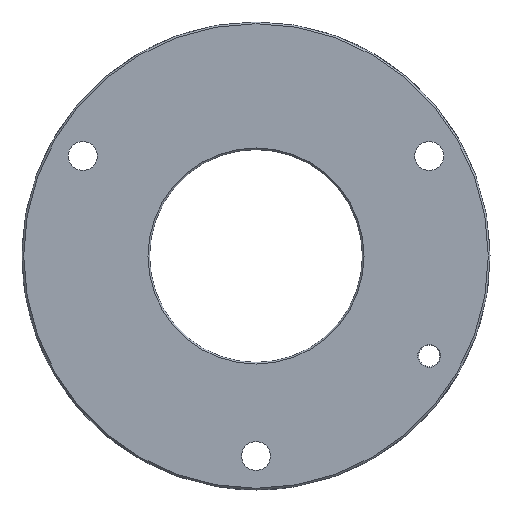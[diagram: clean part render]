
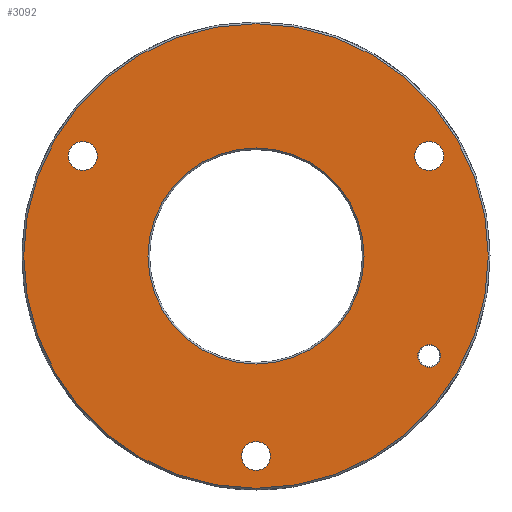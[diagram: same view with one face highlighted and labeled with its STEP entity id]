
A CAD part, front view. The second image highlights one B-rep face of the part: STEP entity #3092.
In plain terms, the highlighted planar face has unit normal (0, -1, 0).
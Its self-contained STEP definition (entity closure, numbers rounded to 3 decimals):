
#17 = AXIS2_PLACEMENT_3D ( 'NONE', #2975, #611, #1956 ) ;
#19 = FACE_BOUND ( 'NONE', #1438, .T. ) ;
#27 = VERTEX_POINT ( 'NONE', #1598 ) ;
#30 = EDGE_LOOP ( 'NONE', ( #1203, #3297 ) ) ;
#56 = VERTEX_POINT ( 'NONE', #2658 ) ;
#73 = CIRCLE ( 'NONE', #1187, 27.3 ) ;
#77 = CARTESIAN_POINT ( 'NONE',  ( 20.352, 0., -11.75 ) ) ;
#88 = DIRECTION ( 'NONE',  ( 0., 0., 1. ) ) ;
#148 = EDGE_LOOP ( 'NONE', ( #2287, #2779 ) ) ;
#197 = CARTESIAN_POINT ( 'NONE',  ( -20.352, 0., 13.45 ) ) ;
#205 = DIRECTION ( 'NONE',  ( 0., 0., 1. ) ) ;
#218 = VERTEX_POINT ( 'NONE', #2917 ) ;
#223 = CARTESIAN_POINT ( 'NONE',  ( 0., 0., 0. ) ) ;
#229 = AXIS2_PLACEMENT_3D ( 'NONE', #1380, #2192, #3225 ) ;
#236 = VERTEX_POINT ( 'NONE', #1625 ) ;
#285 = EDGE_CURVE ( 'NONE', #218, #943, #319, .T. ) ;
#319 = CIRCLE ( 'NONE', #761, 1.35 ) ;
#365 = CIRCLE ( 'NONE', #808, 12.7 ) ;
#390 = DIRECTION ( 'NONE',  ( 0., 0., 1. ) ) ;
#468 = DIRECTION ( 'NONE',  ( 0., 1., 0. ) ) ;
#480 = EDGE_CURVE ( 'NONE', #622, #236, #1616, .T. ) ;
#486 = FACE_BOUND ( 'NONE', #1218, .T. ) ;
#516 = AXIS2_PLACEMENT_3D ( 'NONE', #2047, #1545, #3155 ) ;
#611 = DIRECTION ( 'NONE',  ( 0., 1., 0. ) ) ;
#615 = CIRCLE ( 'NONE', #1855, 1.7 ) ;
#621 = EDGE_CURVE ( 'NONE', #1138, #27, #73, .T. ) ;
#622 = VERTEX_POINT ( 'NONE', #197 ) ;
#632 = CARTESIAN_POINT ( 'NONE',  ( -20.352, 0., 11.75 ) ) ;
#650 = ORIENTED_EDGE ( 'NONE', *, *, #2300, .T. ) ;
#693 = VERTEX_POINT ( 'NONE', #2903 ) ;
#724 = CARTESIAN_POINT ( 'NONE',  ( 0., 0., -25.2 ) ) ;
#732 = PLANE ( 'NONE',  #2748 ) ;
#747 = FACE_BOUND ( 'NONE', #837, .T. ) ;
#761 = AXIS2_PLACEMENT_3D ( 'NONE', #77, #1192, #1136 ) ;
#787 = EDGE_CURVE ( 'NONE', #2414, #2958, #1504, .T. ) ;
#789 = CIRCLE ( 'NONE', #229, 1.35 ) ;
#808 = AXIS2_PLACEMENT_3D ( 'NONE', #223, #1260, #1530 ) ;
#830 = EDGE_CURVE ( 'NONE', #2884, #1120, #3008, .T. ) ;
#837 = EDGE_LOOP ( 'NONE', ( #2789, #2519 ) ) ;
#902 = DIRECTION ( 'NONE',  ( 0., 1., 0. ) ) ;
#913 = AXIS2_PLACEMENT_3D ( 'NONE', #1198, #902, #3290 ) ;
#936 = EDGE_CURVE ( 'NONE', #693, #56, #365, .T. ) ;
#943 = VERTEX_POINT ( 'NONE', #2334 ) ;
#954 = AXIS2_PLACEMENT_3D ( 'NONE', #2391, #2455, #88 ) ;
#1040 = AXIS2_PLACEMENT_3D ( 'NONE', #3376, #468, #205 ) ;
#1080 = AXIS2_PLACEMENT_3D ( 'NONE', #3259, #1413, #3072 ) ;
#1120 = VERTEX_POINT ( 'NONE', #1193 ) ;
#1122 = CIRCLE ( 'NONE', #2341, 27.3 ) ;
#1132 = CARTESIAN_POINT ( 'NONE',  ( 0., 0., 0. ) ) ;
#1136 = DIRECTION ( 'NONE',  ( 0., 0., 1. ) ) ;
#1138 = VERTEX_POINT ( 'NONE', #2135 ) ;
#1187 = AXIS2_PLACEMENT_3D ( 'NONE', #3087, #2570, #1495 ) ;
#1192 = DIRECTION ( 'NONE',  ( 0., 1., 0. ) ) ;
#1193 = CARTESIAN_POINT ( 'NONE',  ( 20.352, 0., 13.45 ) ) ;
#1198 = CARTESIAN_POINT ( 'NONE',  ( 20.352, 0., 11.75 ) ) ;
#1203 = ORIENTED_EDGE ( 'NONE', *, *, #1685, .T. ) ;
#1218 = EDGE_LOOP ( 'NONE', ( #2747, #2247 ) ) ;
#1240 = FACE_BOUND ( 'NONE', #148, .T. ) ;
#1260 = DIRECTION ( 'NONE',  ( 0., 1., 0. ) ) ;
#1318 = EDGE_CURVE ( 'NONE', #1120, #2884, #2911, .T. ) ;
#1338 = EDGE_LOOP ( 'NONE', ( #2419, #650 ) ) ;
#1380 = CARTESIAN_POINT ( 'NONE',  ( 20.352, 0., -11.75 ) ) ;
#1381 = CARTESIAN_POINT ( 'NONE',  ( 0., 0., 0. ) ) ;
#1413 = DIRECTION ( 'NONE',  ( 0., 1., 0. ) ) ;
#1438 = EDGE_LOOP ( 'NONE', ( #1869, #2831 ) ) ;
#1489 = FACE_OUTER_BOUND ( 'NONE', #30, .T. ) ;
#1495 = DIRECTION ( 'NONE',  ( 0., 0., 1. ) ) ;
#1504 = CIRCLE ( 'NONE', #17, 1.7 ) ;
#1530 = DIRECTION ( 'NONE',  ( 0., 0., 1. ) ) ;
#1545 = DIRECTION ( 'NONE',  ( 0., 1., 0. ) ) ;
#1598 = CARTESIAN_POINT ( 'NONE',  ( 0., 0., 27.3 ) ) ;
#1616 = CIRCLE ( 'NONE', #1080, 1.7 ) ;
#1625 = CARTESIAN_POINT ( 'NONE',  ( -20.352, 0., 10.05 ) ) ;
#1685 = EDGE_CURVE ( 'NONE', #27, #1138, #1122, .T. ) ;
#1855 = AXIS2_PLACEMENT_3D ( 'NONE', #632, #2790, #390 ) ;
#1869 = ORIENTED_EDGE ( 'NONE', *, *, #1318, .T. ) ;
#1946 = DIRECTION ( 'NONE',  ( 0., 0., 1. ) ) ;
#1956 = DIRECTION ( 'NONE',  ( 0., 0., 1. ) ) ;
#2047 = CARTESIAN_POINT ( 'NONE',  ( 0., 0., -23.5 ) ) ;
#2060 = CARTESIAN_POINT ( 'NONE',  ( 0., 0., -21.8 ) ) ;
#2120 = EDGE_CURVE ( 'NONE', #56, #693, #3382, .T. ) ;
#2135 = CARTESIAN_POINT ( 'NONE',  ( 0., 0., -27.3 ) ) ;
#2173 = EDGE_CURVE ( 'NONE', #943, #218, #789, .T. ) ;
#2192 = DIRECTION ( 'NONE',  ( 0., 1., 0. ) ) ;
#2247 = ORIENTED_EDGE ( 'NONE', *, *, #285, .T. ) ;
#2287 = ORIENTED_EDGE ( 'NONE', *, *, #3435, .T. ) ;
#2292 = FACE_BOUND ( 'NONE', #1338, .T. ) ;
#2300 = EDGE_CURVE ( 'NONE', #236, #622, #615, .T. ) ;
#2334 = CARTESIAN_POINT ( 'NONE',  ( 20.352, 0., -13.1 ) ) ;
#2341 = AXIS2_PLACEMENT_3D ( 'NONE', #1132, #2718, #1946 ) ;
#2391 = CARTESIAN_POINT ( 'NONE',  ( 0., 0., 0. ) ) ;
#2405 = DIRECTION ( 'NONE',  ( 0., 0., 1. ) ) ;
#2414 = VERTEX_POINT ( 'NONE', #724 ) ;
#2419 = ORIENTED_EDGE ( 'NONE', *, *, #480, .T. ) ;
#2455 = DIRECTION ( 'NONE',  ( 0., 1., 0. ) ) ;
#2500 = CIRCLE ( 'NONE', #516, 1.7 ) ;
#2519 = ORIENTED_EDGE ( 'NONE', *, *, #2120, .T. ) ;
#2570 = DIRECTION ( 'NONE',  ( 0., -1., 0. ) ) ;
#2658 = CARTESIAN_POINT ( 'NONE',  ( 0., 0., 12.7 ) ) ;
#2718 = DIRECTION ( 'NONE',  ( 0., -1., 0. ) ) ;
#2747 = ORIENTED_EDGE ( 'NONE', *, *, #2173, .T. ) ;
#2748 = AXIS2_PLACEMENT_3D ( 'NONE', #1381, #3261, #2405 ) ;
#2779 = ORIENTED_EDGE ( 'NONE', *, *, #787, .T. ) ;
#2789 = ORIENTED_EDGE ( 'NONE', *, *, #936, .T. ) ;
#2790 = DIRECTION ( 'NONE',  ( 0., 1., 0. ) ) ;
#2831 = ORIENTED_EDGE ( 'NONE', *, *, #830, .T. ) ;
#2884 = VERTEX_POINT ( 'NONE', #3254 ) ;
#2903 = CARTESIAN_POINT ( 'NONE',  ( 0., 0., -12.7 ) ) ;
#2911 = CIRCLE ( 'NONE', #1040, 1.7 ) ;
#2917 = CARTESIAN_POINT ( 'NONE',  ( 20.352, 0., -10.4 ) ) ;
#2958 = VERTEX_POINT ( 'NONE', #2060 ) ;
#2975 = CARTESIAN_POINT ( 'NONE',  ( 0., 0., -23.5 ) ) ;
#3008 = CIRCLE ( 'NONE', #913, 1.7 ) ;
#3072 = DIRECTION ( 'NONE',  ( 0., 0., 1. ) ) ;
#3087 = CARTESIAN_POINT ( 'NONE',  ( 0., 0., 0. ) ) ;
#3092 = ADVANCED_FACE ( 'NONE', ( #486, #747, #1489, #1240, #19, #2292 ), #732, .F. ) ;
#3155 = DIRECTION ( 'NONE',  ( 0., 0., 1. ) ) ;
#3225 = DIRECTION ( 'NONE',  ( 0., 0., 1. ) ) ;
#3254 = CARTESIAN_POINT ( 'NONE',  ( 20.352, 0., 10.05 ) ) ;
#3259 = CARTESIAN_POINT ( 'NONE',  ( -20.352, 0., 11.75 ) ) ;
#3261 = DIRECTION ( 'NONE',  ( 0., 1., 0. ) ) ;
#3290 = DIRECTION ( 'NONE',  ( 0., 0., 1. ) ) ;
#3297 = ORIENTED_EDGE ( 'NONE', *, *, #621, .T. ) ;
#3376 = CARTESIAN_POINT ( 'NONE',  ( 20.352, 0., 11.75 ) ) ;
#3382 = CIRCLE ( 'NONE', #954, 12.7 ) ;
#3435 = EDGE_CURVE ( 'NONE', #2958, #2414, #2500, .T. ) ;
